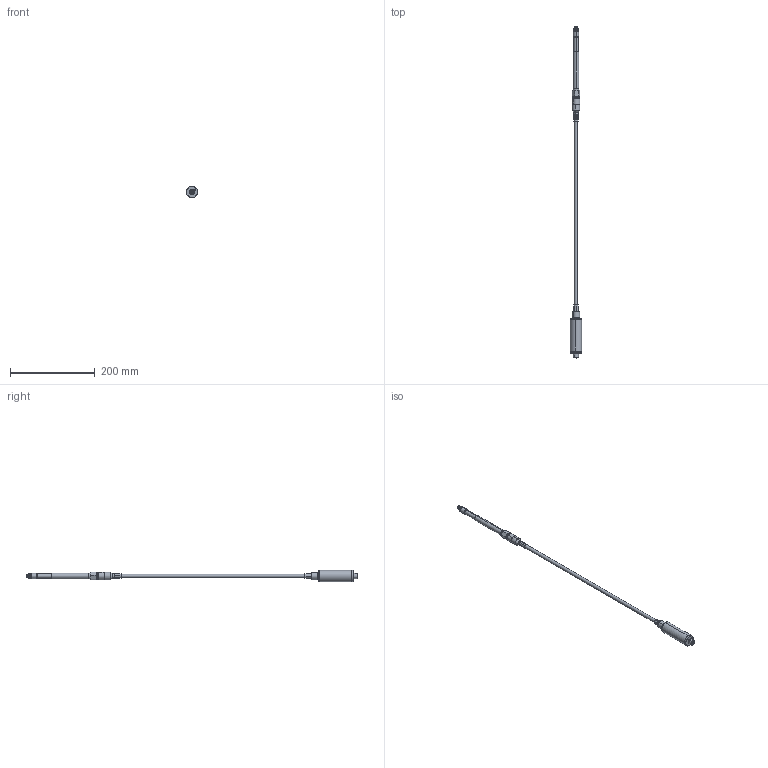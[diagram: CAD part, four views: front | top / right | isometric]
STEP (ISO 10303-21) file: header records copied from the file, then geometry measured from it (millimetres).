
FILE_DESCRIPTION (( 'STEP AP203' ), '1' );
FILE_NAME ('ILI1-S-5-x-xxxx-1-4-D-P.STEP', '2021-02-04T13:05:28', ( '' ), ( '' ), 'SwSTEP 2.0', 'SolidWorks 2021', '' );
FILE_SCHEMA (( 'CONFIG_CONTROL_DESIGN' ));
Length unit declared in the file: millimetre
Products named in the file (1): ILI1-S-5-x-xxxx-1-4-D-P
Bounding box: 26.46 x 784.4 x 26.46 mm (x, y, z)
Surface area: 31082.9 mm2 (no closed solid volume)
Topology: 0 solids, 25 shells, 147 faces, 451 edges, 318 vertices
Faces by surface type: cylinder 76, plane 33, cone 20, torus 18
Entity records: 5208 total; most frequent: CARTESIAN_POINT 1045, DIRECTION 955, ORIENTED_EDGE 692, EDGE_CURVE 451, AXIS2_PLACEMENT_3D 380, VERTEX_POINT 318, CIRCLE 232, LINE 195
